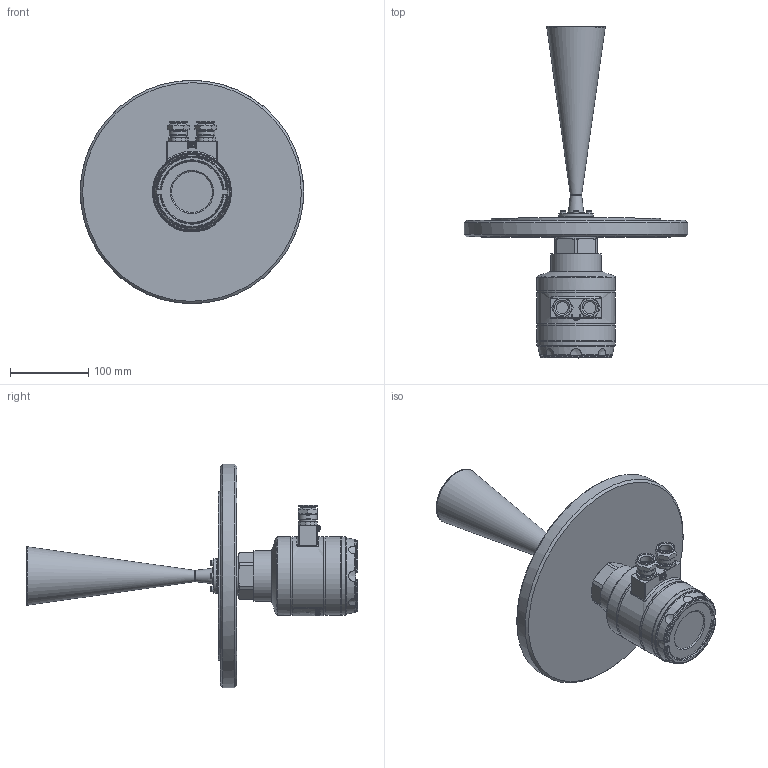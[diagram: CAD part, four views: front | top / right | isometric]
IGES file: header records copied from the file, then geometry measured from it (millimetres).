
Global section: file name: WES_180_Xház,; native system: Autodesk Inventor 2015; preprocessor: unknown; author: aantal; date: 20150713.095605; units: millimetre
Bounding box: 285 x 423.66 x 285 mm (x, y, z)
Volume: 2499247.4 mm3; surface area: 305987.2 mm2
Topology: 15 solids, 15 shells, 486 faces, 1213 edges, 793 vertices
Faces by surface type: bspline 486
